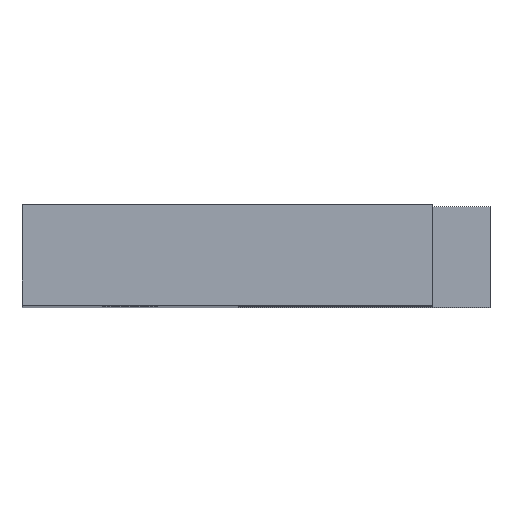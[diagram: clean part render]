
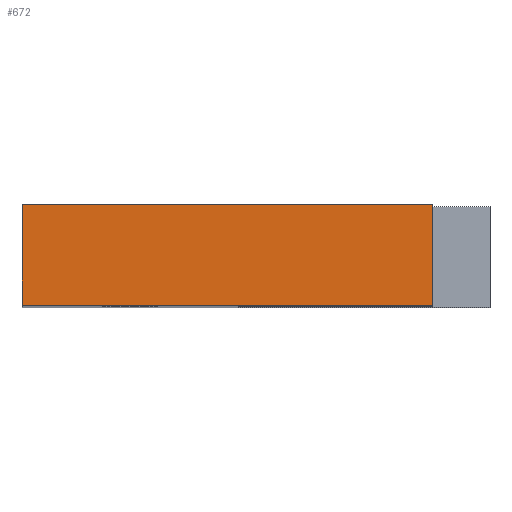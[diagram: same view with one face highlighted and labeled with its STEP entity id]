
A CAD part, top view. The second image highlights one B-rep face of the part: STEP entity #672.
In plain terms, the highlighted planar face has unit normal (0, 0, 1).
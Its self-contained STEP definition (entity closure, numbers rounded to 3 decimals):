
#44 = PLANE('',#45);
#45 = AXIS2_PLACEMENT_3D('',#46,#47,#48);
#46 = CARTESIAN_POINT('',(-263.5,-85.,96.485));
#47 = DIRECTION('',(1.,0.,0.));
#48 = DIRECTION('',(0.,0.,-1.));
#72 = PLANE('',#73);
#73 = AXIS2_PLACEMENT_3D('',#74,#75,#76);
#74 = CARTESIAN_POINT('',(-237.68,-99.,-4.535));
#75 = DIRECTION('',(-0.,-1.,-0.));
#76 = DIRECTION('',(0.,0.,-1.));
#126 = PLANE('',#127);
#127 = AXIS2_PLACEMENT_3D('',#128,#129,#130);
#128 = CARTESIAN_POINT('',(-237.68,-85.,-4.535));
#129 = DIRECTION('',(-0.,-1.,-0.));
#130 = DIRECTION('',(0.,0.,-1.));
#141 = EDGE_CURVE('',#142,#144,#146,.T.);
#142 = VERTEX_POINT('',#143);
#143 = CARTESIAN_POINT('',(-263.5,-85.,96.485));
#144 = VERTEX_POINT('',#145);
#145 = CARTESIAN_POINT('',(-263.5,-99.,96.485));
#146 = SURFACE_CURVE('',#147,(#151,#158),.PCURVE_S1.);
#147 = LINE('',#148,#149);
#148 = CARTESIAN_POINT('',(-263.5,-85.,96.485));
#149 = VECTOR('',#150,1.);
#150 = DIRECTION('',(0.,-1.,0.));
#151 = PCURVE('',#44,#152);
#152 = DEFINITIONAL_REPRESENTATION('',(#153),#157);
#153 = LINE('',#154,#155);
#154 = CARTESIAN_POINT('',(0.,0.));
#155 = VECTOR('',#156,1.);
#156 = DIRECTION('',(0.,-1.));
#157 = ( GEOMETRIC_REPRESENTATION_CONTEXT(2) 
PARAMETRIC_REPRESENTATION_CONTEXT() REPRESENTATION_CONTEXT('2D SPACE',''
  ) );
#158 = PCURVE('',#159,#164);
#159 = PLANE('',#160);
#160 = AXIS2_PLACEMENT_3D('',#161,#162,#163);
#161 = CARTESIAN_POINT('',(-206.5,-85.,96.485));
#162 = DIRECTION('',(-0.,-0.,-1.));
#163 = DIRECTION('',(-1.,0.,0.));
#164 = DEFINITIONAL_REPRESENTATION('',(#165),#169);
#165 = LINE('',#166,#167);
#166 = CARTESIAN_POINT('',(57.,0.));
#167 = VECTOR('',#168,1.);
#168 = DIRECTION('',(0.,-1.));
#169 = ( GEOMETRIC_REPRESENTATION_CONTEXT(2) 
PARAMETRIC_REPRESENTATION_CONTEXT() REPRESENTATION_CONTEXT('2D SPACE',''
  ) );
#375 = VERTEX_POINT('',#376);
#376 = CARTESIAN_POINT('',(-206.5,-85.,96.485));
#390 = PLANE('',#391);
#391 = AXIS2_PLACEMENT_3D('',#392,#393,#394);
#392 = CARTESIAN_POINT('',(-206.5,-85.,29.479));
#393 = DIRECTION('',(-1.,0.,0.));
#394 = DIRECTION('',(0.,0.,1.));
#402 = EDGE_CURVE('',#375,#142,#403,.T.);
#403 = SURFACE_CURVE('',#404,(#408,#415),.PCURVE_S1.);
#404 = LINE('',#405,#406);
#405 = CARTESIAN_POINT('',(-206.5,-85.,96.485));
#406 = VECTOR('',#407,1.);
#407 = DIRECTION('',(-1.,0.,0.));
#408 = PCURVE('',#126,#409);
#409 = DEFINITIONAL_REPRESENTATION('',(#410),#414);
#410 = LINE('',#411,#412);
#411 = CARTESIAN_POINT('',(-101.02,31.18));
#412 = VECTOR('',#413,1.);
#413 = DIRECTION('',(0.,-1.));
#414 = ( GEOMETRIC_REPRESENTATION_CONTEXT(2) 
PARAMETRIC_REPRESENTATION_CONTEXT() REPRESENTATION_CONTEXT('2D SPACE',''
  ) );
#415 = PCURVE('',#159,#416);
#416 = DEFINITIONAL_REPRESENTATION('',(#417),#421);
#417 = LINE('',#418,#419);
#418 = CARTESIAN_POINT('',(0.,0.));
#419 = VECTOR('',#420,1.);
#420 = DIRECTION('',(1.,0.));
#421 = ( GEOMETRIC_REPRESENTATION_CONTEXT(2) 
PARAMETRIC_REPRESENTATION_CONTEXT() REPRESENTATION_CONTEXT('2D SPACE',''
  ) );
#569 = VERTEX_POINT('',#570);
#570 = CARTESIAN_POINT('',(-206.5,-99.,96.485));
#591 = EDGE_CURVE('',#569,#144,#592,.T.);
#592 = SURFACE_CURVE('',#593,(#597,#604),.PCURVE_S1.);
#593 = LINE('',#594,#595);
#594 = CARTESIAN_POINT('',(-206.5,-99.,96.485));
#595 = VECTOR('',#596,1.);
#596 = DIRECTION('',(-1.,0.,0.));
#597 = PCURVE('',#72,#598);
#598 = DEFINITIONAL_REPRESENTATION('',(#599),#603);
#599 = LINE('',#600,#601);
#600 = CARTESIAN_POINT('',(-101.02,31.18));
#601 = VECTOR('',#602,1.);
#602 = DIRECTION('',(0.,-1.));
#603 = ( GEOMETRIC_REPRESENTATION_CONTEXT(2) 
PARAMETRIC_REPRESENTATION_CONTEXT() REPRESENTATION_CONTEXT('2D SPACE',''
  ) );
#604 = PCURVE('',#159,#605);
#605 = DEFINITIONAL_REPRESENTATION('',(#606),#610);
#606 = LINE('',#607,#608);
#607 = CARTESIAN_POINT('',(0.,-14.));
#608 = VECTOR('',#609,1.);
#609 = DIRECTION('',(1.,0.));
#610 = ( GEOMETRIC_REPRESENTATION_CONTEXT(2) 
PARAMETRIC_REPRESENTATION_CONTEXT() REPRESENTATION_CONTEXT('2D SPACE',''
  ) );
#672 = ADVANCED_FACE('',(#673),#159,.F.);
#673 = FACE_BOUND('',#674,.F.);
#674 = EDGE_LOOP('',(#675,#696,#697,#698));
#675 = ORIENTED_EDGE('',*,*,#676,.T.);
#676 = EDGE_CURVE('',#375,#569,#677,.T.);
#677 = SURFACE_CURVE('',#678,(#682,#689),.PCURVE_S1.);
#678 = LINE('',#679,#680);
#679 = CARTESIAN_POINT('',(-206.5,-85.,96.485));
#680 = VECTOR('',#681,1.);
#681 = DIRECTION('',(0.,-1.,0.));
#682 = PCURVE('',#159,#683);
#683 = DEFINITIONAL_REPRESENTATION('',(#684),#688);
#684 = LINE('',#685,#686);
#685 = CARTESIAN_POINT('',(0.,0.));
#686 = VECTOR('',#687,1.);
#687 = DIRECTION('',(0.,-1.));
#688 = ( GEOMETRIC_REPRESENTATION_CONTEXT(2) 
PARAMETRIC_REPRESENTATION_CONTEXT() REPRESENTATION_CONTEXT('2D SPACE',''
  ) );
#689 = PCURVE('',#390,#690);
#690 = DEFINITIONAL_REPRESENTATION('',(#691),#695);
#691 = LINE('',#692,#693);
#692 = CARTESIAN_POINT('',(67.006,0.));
#693 = VECTOR('',#694,1.);
#694 = DIRECTION('',(0.,-1.));
#695 = ( GEOMETRIC_REPRESENTATION_CONTEXT(2) 
PARAMETRIC_REPRESENTATION_CONTEXT() REPRESENTATION_CONTEXT('2D SPACE',''
  ) );
#696 = ORIENTED_EDGE('',*,*,#591,.T.);
#697 = ORIENTED_EDGE('',*,*,#141,.F.);
#698 = ORIENTED_EDGE('',*,*,#402,.F.);
